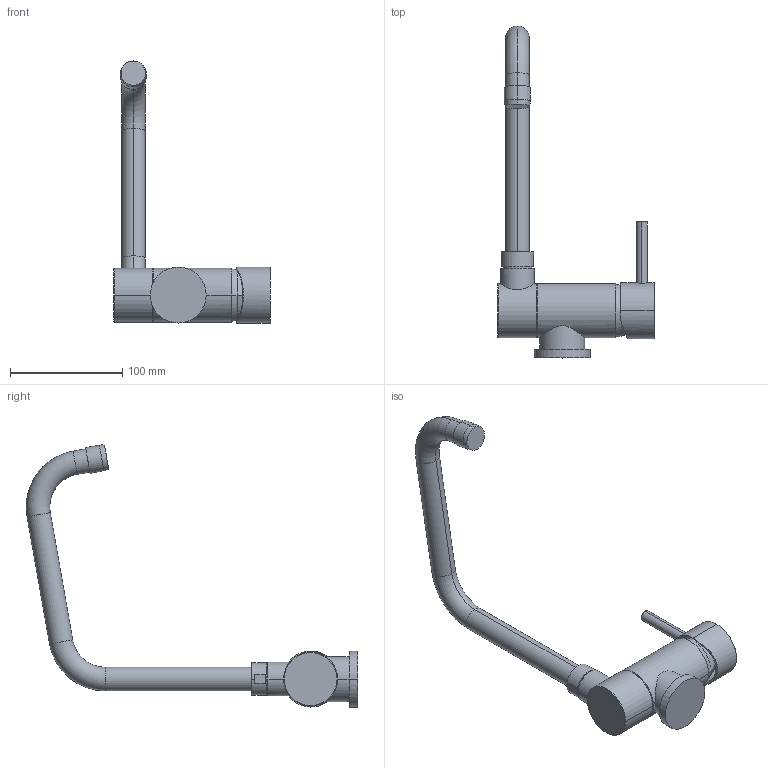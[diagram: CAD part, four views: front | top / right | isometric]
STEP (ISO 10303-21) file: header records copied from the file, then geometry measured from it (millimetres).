
FILE_DESCRIPTION((''),'2;1');
FILE_NAME('3D_SW0001','2014-06-24T',('ivanv'),(''),'PRO/ENGINEER BY PARAMETRIC TECHNOLOGY CORPORATION, 2012130','PRO/ENGINEER BY PARAMETRIC TECHNOLOGY CORPORATION, 2012130','');
FILE_SCHEMA(('CONFIG_CONTROL_DESIGN'));
Length unit declared in the file: millimetre
Products named in the file (1): 3D_SW0001
Bounding box: 139.5 x 295.27 x 233.34 mm (x, y, z)
Volume: 305418.6 mm3; surface area: 95922.2 mm2
Topology: 3 solids, 6 shells, 167 faces, 357 edges, 212 vertices
Faces by surface type: cylinder 65, plane 45, cone 27, torus 24, bspline 6
Entity records: 5322 total; most frequent: CARTESIAN_POINT 1608, DIRECTION 846, ORIENTED_EDGE 706, AXIS2_PLACEMENT_3D 356, EDGE_CURVE 353, VERTEX_POINT 212, CIRCLE 195, EDGE_LOOP 185
